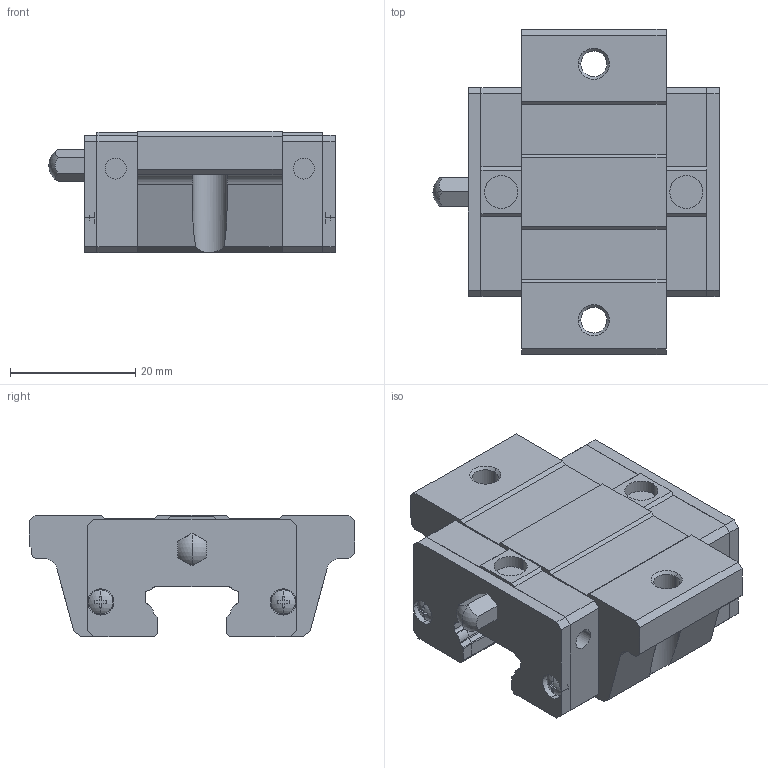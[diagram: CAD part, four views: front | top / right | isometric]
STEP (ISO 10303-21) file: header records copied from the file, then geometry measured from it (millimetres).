
FILE_DESCRIPTION(('starvars output'),'2;1');
FILE_NAME('cv20190610054228000019933.stp','05:42:28 2019/06/10',( 'Thomas Industrial Network Germany GmbH'),( 'Thomas Industrial Network Germany GmbH'),'unknown preprocess','ACIS' ,'unknown authorization');
FILE_SCHEMA(('CONFIG_CONTROL_DESIGN {UNKNOWN IMPLEMENTATION LEVEL}'));
Length unit declared in the file: millimetre
Products named in the file (10): PRODUCT_ID_1; PRODUCT_ID_2; PRODUCT_ID_3; PRODUCT_ID_4; PRODUCT_ID_5; PRODUCT_ID_6; PRODUCT_ID_7; PRODUCT_ID_8; PRODUCT_ID_9; PRODUCT_ID_10
Bounding box: 45.8 x 52 x 19.5 mm (x, y, z)
Volume: 25919.5 mm3; surface area: 12284.1 mm2
Topology: 10 solids, 10 shells, 358 faces, 967 edges, 636 vertices
Faces by surface type: plane 203, cylinder 129, cone 16, sphere 10
Entity records: 11440 total; most frequent: ORIENTED_EDGE 1942, CARTESIAN_POINT 1797, DIRECTION 1746, EDGE_CURVE 967, VERTEX_POINT 636, AXIS2_PLACEMENT_3D 585, VECTOR 576, LINE 576
